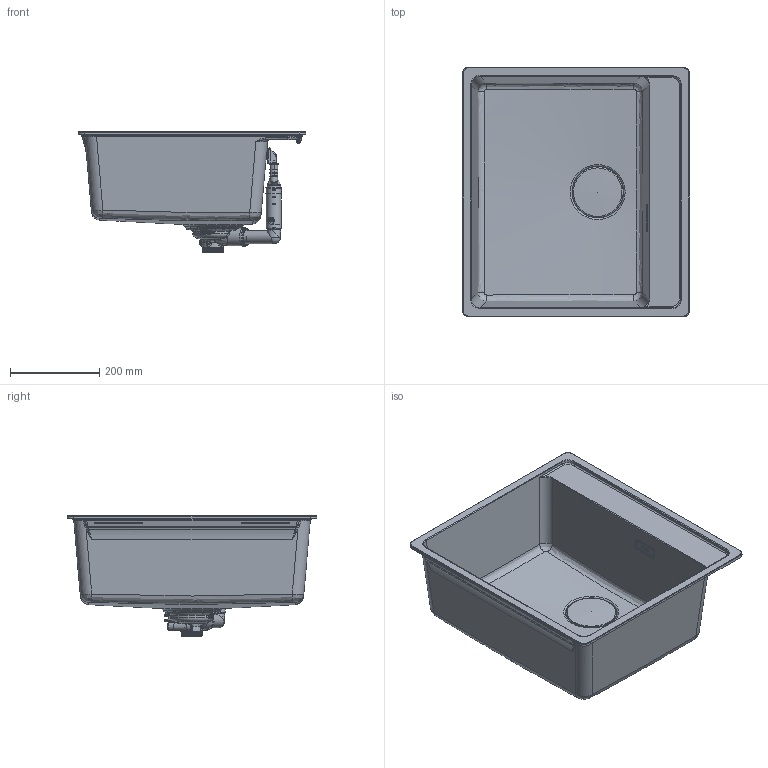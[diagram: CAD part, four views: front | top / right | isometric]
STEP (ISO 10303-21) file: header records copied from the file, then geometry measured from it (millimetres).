
FILE_DESCRIPTION(/* description */ ('UBG 610-56'),/* implementation_level */ '2;1');
FILE_NAME(/* name */ 'C:\Users\PS950\OneDrive - Franke Group\Desktop\MRG 3D Data\MRG 610-52 tL\MRG 610-52 TL.stp',/* time_stamp */ '2021-09-10T14:02:02+02:00',/* author */ ('PS950'),/* organization */ (''),/* preprocessor_version */ 'ST-DEVELOPER v18.1',/* originating_system */ 'Autodesk Inventor 2021',/* authorisation */ '');
FILE_SCHEMA (('AUTOMOTIVE_DESIGN { 1 0 10303 214 3 1 1 }'));
Length unit declared in the file: millimetre
Products named in the file (22): 0056-219306; Standard; NEW MARIS_V01; 0056-218666; 0056-202897; 0056-214469; 0056-203246; 0056-213999; 0056-127368; 0056-215850; 0056-215855; 0056-185732; 0056-214454; 0056-214010; 0056-135514; 0056-137629; 0056-142823; 0056-165491; 0056-161093; 0056-216002; 0056-216000; 0056-207145
Assembly tree (24 placements, depth 4):
  0056-219306
    Standard
      NEW MARIS_V01
    0056-218666
      0056-202897
      0056-214469
      0056-203246
        0056-213999
        0056-127368
        0056-215850
        0056-215855
        0056-185732
        0056-214454
        0056-214010
    0056-135514
    0056-137629
    0056-142823
    0056-165491
    0056-161093
    0056-216002
      0056-216000
      0056-207145  x4
Bounding box: 510 x 560 x 271.19 mm (x, y, z)
Volume: 4456814.2 mm3; surface area: 1388620.9 mm2
Topology: 20 solids, 20 shells, 5149 faces, 13667 edges, 8748 vertices
Faces by surface type: plane 2679, bspline 1156, cylinder 683, torus 347, cone 221, sphere 63
Full cylindrical faces by diameter (mm): 3.242 x1, 4 x1, 4.5 x1, 4.7 x1, 4.85 x1, 5.2 x1, 5.25 x1, 5.85 x2, 6 x4, 6.01 x1, 6.2 x1, 8 x2, 8.25 x1, 11.003 x8, 12 x1, 12.5 x9, 12.6 x1, 13.743 x1, 14.3 x1, 16.941 x1, 22 x1, 26 x1, 27 x1, 28 x2, 30 x7, 33 x2, 33.75 x1, 34 x2, 36.5 x1, 39 x2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
Entity records: 184763 total; most frequent: CARTESIAN_POINT 67951, ORIENTED_EDGE 26132, DIRECTION 20757, EDGE_CURVE 13066, VERTEX_POINT 8436, LINE 7631, VECTOR 7631, AXIS2_PLACEMENT_3D 6563
